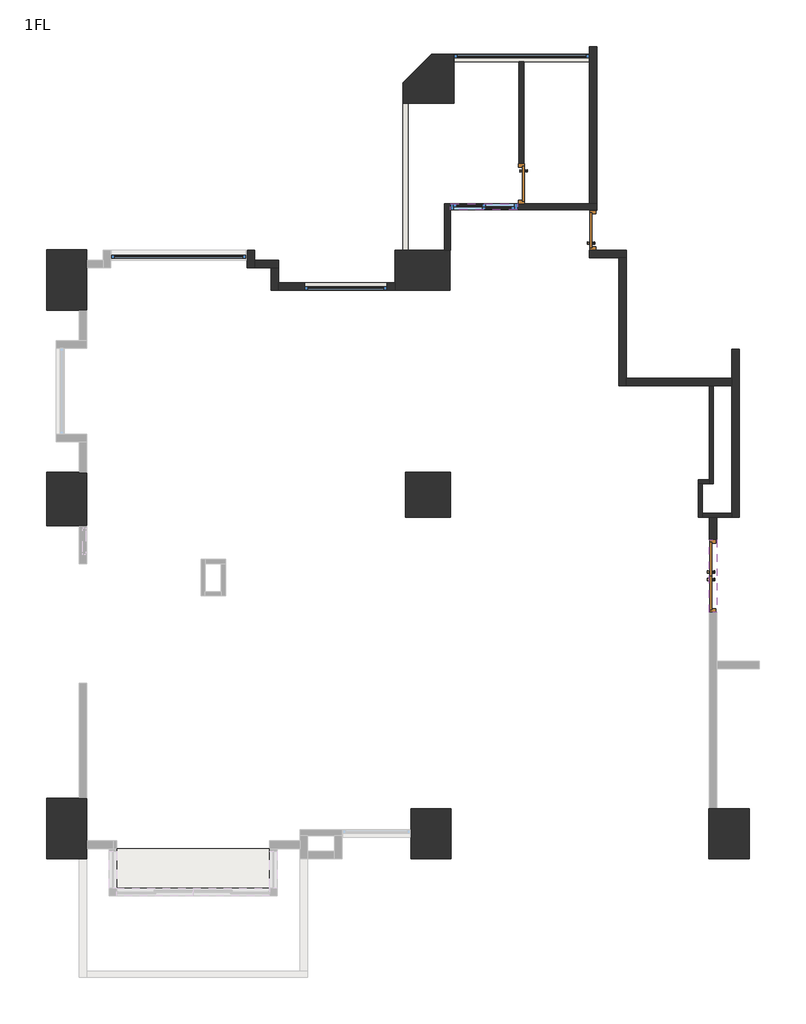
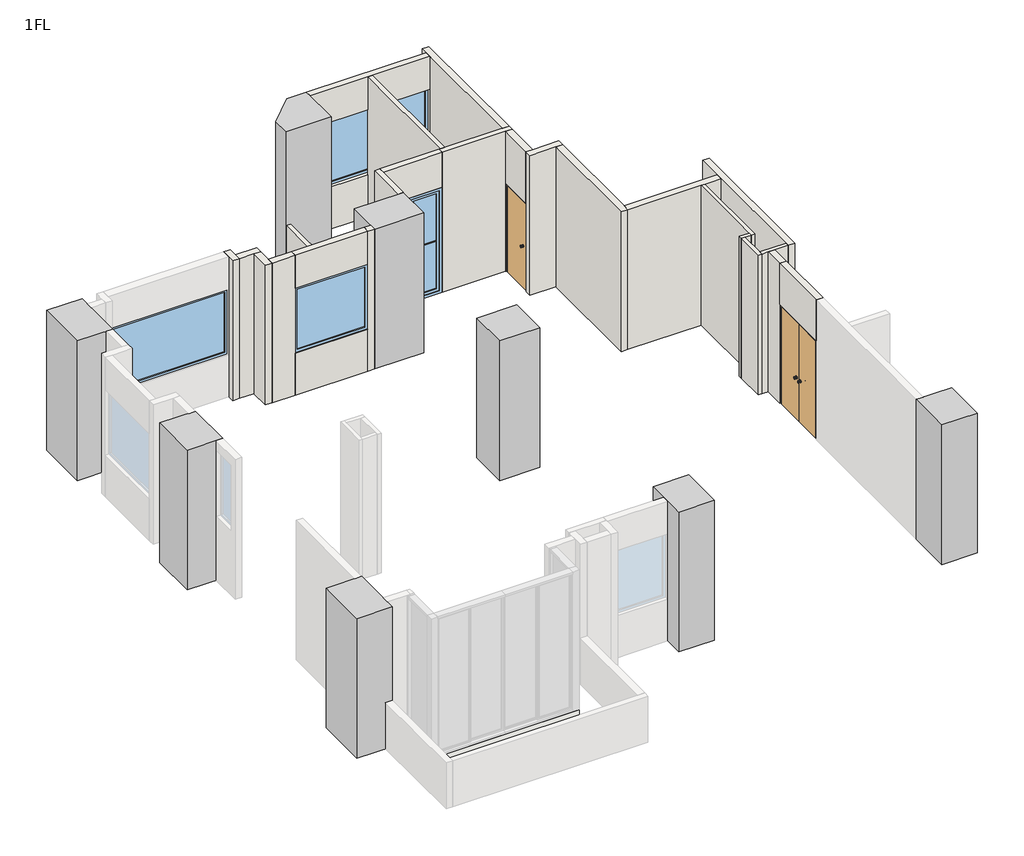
# One storey, part 2 of 2: 24 walls, 8 columns, 4 windows, 3 doors, 1 slab.
"""IFC4 building model written with IfcOpenShell, lengths in millimetres."""

from ifc_helpers import new_model, si_unit, frame, origin, origin_with_axes, place, context, project, spatial, polyline, outline, extrude, faceted_brep, transform, mapped, element, save
from components import column_736fa4ae, column_110_x_80cm_348409cf, column_80_x_100cm_881e18c4, column_80_x_107cm_b52650c9, column_80_x_120cm_96187e5d, column_90_x_90cm_5c75d0cf, door_297d4c04, door_ad5a13f9, door_46a0c78e, window_445307ba, window_89e4bd1d, window_915d79c7, window_ba6ed91b

model = new_model("IFC4")

# Units and contexts
model_context = context("Model", 3, world=origin())
ifc_project = project(units=[si_unit("LENGTHUNIT", "METRE", prefix="MILLI")], contexts=[model_context])

# Site, building, storey
site = spatial("IfcSite", under=ifc_project)
building = spatial("IfcBuilding", under=site)
storey = spatial("IfcBuildingStorey", under=building, Name="1FL", Elevation=0.0)

# Columns
placement = place(None, origin())
column_shape = column_736fa4ae(model_context)
element("IfcColumn", 1, ObjectType="柱 1 : 柱 1", at=placement, inside=storey, context=model_context, shape_type="MappedRepresentation", body=[
    mapped(column_shape, transform((0.0, 0.0, 0.0), x_axis=(1.0, 0.0, 0.0), y_axis=(0.0, 1.0, 0.0), z_axis=(0.0, 0.0, 1.0))),
])
column_110_x_80cm_shape = column_110_x_80cm_348409cf(model_context)
element("IfcColumn", 2, ObjectType="混凝土柱-矩形 : 110 x 80cm", at=placement, inside=storey, context=model_context, shape_type="MappedRepresentation", body=[
    mapped(column_110_x_80cm_shape, transform((601.1844448, 7264.0698741, 0.0), x_axis=(1.0, 0.0, 0.0), y_axis=(0.0, 1.0, 0.0), z_axis=(0.0, 0.0, 1.0))),
])
column_80_x_100cm_shape = column_80_x_100cm_881e18c4(model_context)
element("IfcColumn", 3, ObjectType="混凝土柱-矩形 : 80 x 100cm", at=placement, inside=storey, context=model_context, shape_type="MappedRepresentation", body=[
    mapped(column_80_x_100cm_shape, transform((771.1844446, -3945.9301263, 0.0), x_axis=(1.0, 0.0, 0.0), y_axis=(0.0, 1.0, 0.0), z_axis=(0.0, 0.0, 1.0))),
])
element("IfcColumn", 4, ObjectType="混凝土柱-矩形 : 80 x 100cm", at=placement, inside=storey, context=model_context, shape_type="MappedRepresentation", body=[
    mapped(column_80_x_100cm_shape, transform((6706.1844447, -3945.9301263, 0.0), x_axis=(1.0, 0.0, 0.0), y_axis=(0.0, 1.0, 0.0), z_axis=(0.0, 0.0, 1.0))),
])
column_80_x_107cm_shape = column_80_x_107cm_b52650c9(model_context)
element("IfcColumn", 5, ObjectType="混凝土柱-矩形 : 80 x 107cm", at=placement, inside=storey, context=model_context, shape_type="MappedRepresentation", body=[
    mapped(column_80_x_107cm_shape, transform((-6481.3155559, 2713.6328358, 0.0), x_axis=(1.0, 0.0, 0.0), y_axis=(0.0, 1.0, 0.0), z_axis=(0.0, 0.0, 1.0))),
])
column_80_x_120cm_shape = column_80_x_120cm_96187e5d(model_context)
element("IfcColumn", 6, ObjectType="混凝土柱-矩形 : 80 x 120cm", at=placement, inside=storey, context=model_context, shape_type="MappedRepresentation", body=[
    mapped(column_80_x_120cm_shape, transform((-6481.3155559, 7069.0698739, 0.0), x_axis=(1.0, 0.0, 0.0), y_axis=(0.0, 1.0, 0.0), z_axis=(0.0, 0.0, 1.0))),
])
element("IfcColumn", 7, ObjectType="混凝土柱-矩形 : 80 x 120cm", at=placement, inside=storey, context=model_context, shape_type="MappedRepresentation", body=[
    mapped(column_80_x_120cm_shape, transform((-6481.3155559, -3840.9301265, 0.0), x_axis=(1.0, 0.0, 0.0), y_axis=(0.0, 1.0, 0.0), z_axis=(0.0, 0.0, 1.0))),
])
column_90_x_90cm_shape = column_90_x_90cm_5c75d0cf(model_context)
element("IfcColumn", 8, ObjectType="混凝土柱-矩形 : 90 x 90cm", at=placement, inside=storey, context=model_context, shape_type="MappedRepresentation", body=[
    mapped(column_90_x_90cm_shape, transform((711.4409413, 2794.9475967, 0.0), x_axis=(1.0, 0.0, 0.0), y_axis=(0.0, 1.0, 0.0), z_axis=(0.0, 0.0, 1.0))),
])

# Doors
door_shape = door_297d4c04(model_context)
element("IfcDoor", 9, ObjectType="雙開-矩形- (1) : 143.5 * 236 cm", at=placement, inside=storey, context=model_context, shape_type="MappedRepresentation", body=[
    mapped(door_shape, transform((6386.1844447, 1181.5698741, 0.0), x_axis=(0.0, 1.0, 0.0), y_axis=(-1.0, 0.0, 0.0), z_axis=(0.0, 0.0, 1.0))),
])
door_2_shape = door_ad5a13f9(model_context)
element("IfcDoor", 10, ObjectType="單開-矩形- (1) : 80 * 210 cm", at=placement, inside=storey, context=model_context, shape_type="MappedRepresentation", body=[
    mapped(door_2_shape, transform((3786.1844446, 8056.5698732, 0.0), x_axis=(0.0, -1.0, 0.0), y_axis=(1.0, 0.0, 0.0), z_axis=(0.0, 0.0, 1.0))),
])
door_3_shape = door_46a0c78e(model_context)
element("IfcDoor", 11, ObjectType="單開-矩形- (1) : 80 * 230 cm", at=placement, inside=storey, context=model_context, shape_type="MappedRepresentation", body=[
    mapped(door_3_shape, transform((2783.6844446, 8984.0698722, 0.0), x_axis=(0.0, 1.0, 0.0), y_axis=(-1.0, 0.0, 0.0), z_axis=(0.0, 0.0, 1.0))),
])

# Slab
element("IfcSlab", 12, ObjectType="一般 - 15cm", at=placement, inside=storey, context=model_context, shape_type="SweptSolid", body=[
    extrude(outline(polyline([(-2288.8155555, -4240.9301269), (-2288.8155555, -5180.9301263), (-5633.8155559, -5180.9301263), (-5633.8155559, -4240.9301269), (-2288.8155555, -4240.9301269)])), frame((0.0, 0.0, -150.0), z_axis=(0.0, 0.0, 1.0), x_axis=(1.0, 0.0, 0.0)), (0.0, 0.0, 1.0), 150.0),
])

# Walls
element("IfcWall", 13, ObjectType="RC牆 15cm", at=placement, inside=storey, context=model_context, shape_type="Brep", body=[
    faceted_brep([(-2891.3155558, 7664.0698741, 0.0), (-2891.3155558, 7464.0698741, 0.0), (-2891.3155558, 7314.069874, 0.0), (-2891.3155558, 7314.069874, 3330.0), (-2891.3155558, 7464.0698741, 3330.0), (-2891.3155558, 7664.0698741, 3330.0), (-2741.3155558, 7664.0698741, 0.0), (-2741.3155558, 7664.0698741, 3330.0), (-2741.3155558, 7464.069874, 3330.0), (-2741.3155558, 7314.069874, 3330.0), (-2741.3155558, 7314.069874, 0.0), (-2741.3155558, 7464.069874, 0.0)], [[[0, 1, 2, 3, 4, 5]], [[6, 7, 8, 9, 10, 11]], [[2, 1, 0, 6, 11, 10]], [[5, 4, 3, 9, 8, 7]], [[3, 2, 10, 9]], [[0, 5, 7, 6]]]),
])
element("IfcWall", 14, ObjectType="RC牆 15cm", at=placement, inside=storey, context=model_context, shape_type="Brep", body=[
    faceted_brep([(-2741.3155558, 7314.069874, 0.0), (-2413.8155559, 7314.069874, 0.0), (-2263.8155559, 7314.069874, 0.0), (-2263.8155559, 7314.069874, 3330.0), (-2413.8155559, 7314.069874, 3330.0), (-2741.3155558, 7314.069874, 3330.0), (-2741.3155558, 7464.069874, 0.0), (-2741.3155558, 7464.069874, 3330.0), (-2263.8155559, 7464.069874, 3330.0), (-2263.8155559, 7464.069874, 0.0)], [[[0, 1, 2, 3, 4, 5]], [[6, 7, 8, 9]], [[2, 1, 0, 6, 9]], [[5, 4, 3, 8, 7]], [[3, 2, 9, 8]], [[0, 5, 7, 6]]]),
])
element("IfcWall", 15, ObjectType="RC牆 15cm", at=placement, inside=storey, context=model_context, shape_type="Brep", body=[
    faceted_brep([(-2413.8155559, 7314.069874, 0.0), (-2413.8155559, 6864.0698744, 0.0), (-2413.8155559, 6864.0698744, 3330.0), (-2413.8155559, 7314.069874, 3330.0), (-2263.8155559, 7314.069874, 0.0), (-2263.8155559, 7314.069874, 3330.0), (-2263.8155559, 7014.0698744, 3330.0), (-2263.8155559, 6864.0698744, 3330.0), (-2263.8155559, 6864.0698744, 0.0), (-2263.8155559, 7014.0698744, 0.0)], [[[0, 1, 2, 3]], [[4, 5, 6, 7, 8, 9]], [[1, 0, 4, 9, 8]], [[3, 2, 7, 6, 5]], [[2, 1, 8, 7]], [[0, 3, 5, 4]]]),
])
element("IfcWall", 16, ObjectType="RC牆 15cm", at=placement, inside=storey, context=model_context, shape_type="Brep", body=[
    faceted_brep([(-2263.8155559, 6864.0698744, 0.0), (-1746.0678377, 6864.0698744, 0.0), (-1746.0678377, 6864.0698744, 1000.0), (-1746.0678377, 6864.0698744, 2550.0), (-1746.0678377, 6864.0698744, 3330.0), (-2263.8155559, 6864.0698744, 3330.0), (-2263.8155559, 7014.0698744, 0.0), (-2263.8155559, 7014.0698744, 3330.0), (-1746.0678377, 7014.0698744, 3330.0), (-1746.0678377, 7014.0698744, 2550.0), (-1746.0678377, 7014.0698744, 1000.0), (-1746.0678377, 7014.0698744, 0.0)], [[[0, 1, 2, 3, 4, 5]], [[6, 7, 8, 9, 10, 11]], [[1, 0, 6, 11]], [[4, 3, 2, 1, 11, 10, 9, 8]], [[5, 4, 8, 7]], [[0, 5, 7, 6]]]),
])
element("IfcWall", 17, ObjectType="RC牆 12cm", at=placement, inside=storey, context=model_context, shape_type="Brep", body=[
    faceted_brep([(1161.1844448, 7664.0698741, 0.0), (1161.1844448, 8584.0698737, 0.0), (1161.1844448, 8584.0698737, 2500.0), (1161.1844448, 8584.0698737, 3330.0), (1161.1844448, 8464.0698737, 3330.0), (1161.1844448, 7664.0698741, 3330.0), (1041.1844448, 7664.0698741, 0.0), (1041.1844448, 7664.0698741, 3330.0), (1041.1844448, 8584.0698737, 3330.0), (1041.1844448, 8584.0698737, 0.0)], [[[0, 1, 2, 3, 4, 5]], [[6, 7, 8, 9]], [[1, 0, 6, 9]], [[5, 4, 3, 8, 7]], [[0, 5, 7, 6]], [[3, 2, 1, 9, 8]]]),
])
element("IfcWall", 18, ObjectType="RC牆 12cm", at=placement, inside=storey, context=model_context, shape_type="Brep", body=[
    faceted_brep([(2491.1844448, 8464.0698722, 0.0), (3921.1844446, 8464.0698722, 0.0), (4071.1844446, 8464.0698722, 0.0), (4071.1844446, 8464.0698722, 3330.0), (3921.1844446, 8464.0698722, 3330.0), (2491.1844448, 8464.0698722, 3330.0), (2491.1844448, 8464.0698722, 2500.0), (2491.1844448, 8584.0698722, 0.0), (2491.1844448, 8584.0698722, 2500.0), (2491.1844448, 8584.0698722, 3330.0), (2523.1844446, 8584.0698722, 3330.0), (2624.1844446, 8584.0698722, 3330.0), (3921.1844446, 8584.0698722, 3330.0), (4071.1844446, 8584.0698722, 3330.0), (4071.1844446, 8584.0698722, 0.0), (3921.1844446, 8584.0698722, 0.0)], [[[0, 1, 2, 3, 4, 5, 6]], [[7, 8, 9, 10, 11, 12, 13, 14, 15]], [[2, 1, 0, 7, 15, 14]], [[5, 4, 3, 13, 12, 11, 10, 9]], [[0, 6, 5, 9, 8, 7]], [[3, 2, 14, 13]]]),
])
element("IfcWall", 19, ObjectType="RC牆 15cm", at=placement, inside=storey, context=model_context, shape_type="Brep", body=[
    faceted_brep([(4071.1844446, 8584.0698722, 0.0), (4071.1844446, 11714.0698742, 0.0), (4071.1844446, 11714.0698742, 3330.0), (4071.1844446, 8584.0698722, 3330.0), (3921.1844446, 11714.0698742, 0.0), (3921.1844446, 11564.0698742, 0.0), (3921.1844446, 11414.0698742, 0.0), (3921.1844446, 8584.0698722, 0.0), (3921.1844446, 8584.0698722, 3330.0), (3921.1844446, 11414.0698742, 3330.0), (3921.1844446, 11564.0698742, 3330.0), (3921.1844446, 11714.0698742, 3330.0), (3921.1844446, 11414.0698742, 2550.0), (3921.1844446, 11414.0698742, 1000.0), (3921.1844446, 11564.0698742, 1000.0), (3921.1844446, 11564.0698742, 2550.0), (3922.8996913, 11414.0698742, 2550.0), (3922.8996913, 11414.0698742, 1000.0), (3922.8996913, 11564.0698742, 1000.0), (3922.8996913, 11564.0698742, 2550.0)], [[[0, 1, 2, 3]], [[4, 5, 6, 7, 8, 9, 10, 11], [12, 13, 14, 15]], [[1, 0, 7, 6, 5, 4]], [[2, 1, 4, 11]], [[3, 2, 11, 10, 9, 8]], [[0, 3, 8, 7]], [[16, 17, 13, 12]], [[18, 19, 15, 14]], [[17, 16, 19, 18]], [[19, 16, 12, 15]], [[17, 18, 14, 13]]]),
])
element("IfcWall", 20, ObjectType="RC牆 10.10", at=placement, inside=storey, context=model_context, shape_type="SweptSolid", body=[
    extrude(outline(polyline([(8584.0698722, 3330.0), (11414.0698742, 3330.0), (11414.0698742, 0.0), (9384.0698722, 0.0), (9384.0698722, 2300.0), (8584.0698722, 2300.0), (8584.0698722, 3330.0)])), frame((2523.1844446, 0.0, 0.0), z_axis=(1.0, 0.0, 0.0), x_axis=(0.0, 1.0, 0.0)), (0.0, 0.0, 1.0), 101.0),
])
element("IfcWall", 21, ObjectType="RC牆 15cm", at=placement, inside=storey, context=model_context, shape_type="Brep", body=[
    faceted_brep([(3921.1844446, 7514.0698742, 0.0), (4511.1844447, 7514.0698742, 0.0), (4661.1844447, 7514.0698742, 0.0), (4661.1844447, 7514.0698742, 3330.0), (4511.1844447, 7514.0698742, 3330.0), (3921.1844446, 7514.0698742, 3330.0), (3921.1844446, 7664.0698742, 3330.0), (4071.1844446, 7664.0698742, 3330.0), (4661.1844447, 7664.0698742, 3330.0), (4661.1844447, 7664.0698742, 0.0), (4071.1844446, 7664.0698742, 0.0), (4071.1844446, 7664.0698742, 2100.0), (3921.1844446, 7664.0698742, 2100.0), (3921.1844446, 7656.5698732, 0.0), (4071.1844446, 7656.5698732, 0.0), (3921.1844446, 7656.5698732, 2100.0), (4071.1844446, 7656.5698732, 2100.0)], [[[0, 1, 2, 3, 4, 5]], [[6, 7, 8, 9, 10, 11, 12]], [[2, 1, 0, 13, 14, 10, 9]], [[5, 4, 3, 8, 7, 6]], [[3, 2, 9, 8]], [[0, 5, 6, 12, 15, 13]], [[14, 16, 11, 10]], [[16, 14, 13, 15]], [[16, 15, 12, 11]]]),
])
element("IfcWall", 22, ObjectType="RC牆 15cm", at=placement, inside=storey, context=model_context, shape_type="Brep", body=[
    faceted_brep([(4511.1844447, 7514.0698742, 0.0), (4511.1844447, 4964.0698732, 0.0), (4511.1844447, 4964.0698732, 3330.0), (4511.1844447, 7514.0698742, 3330.0), (4661.1844447, 7514.0698742, 0.0), (4661.1844447, 7514.0698742, 3330.0), (4661.1844447, 5114.0698732, 3330.0), (4661.1844447, 4964.0698732, 3330.0), (4661.1844447, 4964.0698732, 0.0), (4661.1844447, 5114.0698732, 0.0)], [[[0, 1, 2, 3]], [[4, 5, 6, 7, 8, 9]], [[1, 0, 4, 9, 8]], [[3, 2, 7, 6, 5]], [[2, 1, 8, 7]], [[0, 3, 5, 4]]]),
])
element("IfcWall", 23, ObjectType="RC牆 15cm", at=placement, inside=storey, context=model_context, shape_type="Brep", body=[
    faceted_brep([(4661.1844447, 4964.0698732, 0.0), (6311.1844448, 4964.0698732, 0.0), (6391.1844448, 4964.0698732, 0.0), (6761.1844447, 4964.0698732, 0.0), (6761.1844447, 4964.0698732, 3330.0), (6391.1844448, 4964.0698732, 3330.0), (6311.1844448, 4964.0698732, 3330.0), (4661.1844447, 4964.0698732, 3330.0), (4661.1844447, 5114.0698732, 0.0), (4661.1844447, 5114.0698732, 3330.0), (6761.1844447, 5114.0698732, 3330.0), (6761.1844447, 5114.0698732, 0.0)], [[[0, 1, 2, 3, 4, 5, 6, 7]], [[8, 9, 10, 11]], [[3, 2, 1, 0, 8, 11]], [[7, 6, 5, 4, 10, 9]], [[0, 7, 9, 8]], [[4, 3, 11, 10]]]),
])
element("IfcWall", 24, ObjectType="RC牆 15cm", at=placement, inside=storey, context=model_context, shape_type="Brep", body=[
    faceted_brep([(6761.1844447, 5689.069874, 0.0), (6761.1844447, 5114.0698732, 0.0), (6761.1844447, 4964.0698732, 0.0), (6761.1844447, 2429.069874, 0.0), (6761.1844447, 2349.069874, 0.0), (6761.1844447, 2349.069874, 3330.0), (6761.1844447, 2429.069874, 3330.0), (6761.1844447, 4964.0698732, 3330.0), (6761.1844447, 5114.0698732, 3330.0), (6761.1844447, 5689.069874, 3330.0), (6911.1844447, 5689.069874, 0.0), (6911.1844447, 5689.069874, 3330.0), (6911.1844447, 2349.069874, 3330.0), (6911.1844447, 2349.069874, 0.0)], [[[0, 1, 2, 3, 4, 5, 6, 7, 8, 9]], [[10, 11, 12, 13]], [[4, 3, 2, 1, 0, 10, 13]], [[9, 8, 7, 6, 5, 12, 11]], [[0, 9, 11, 10]], [[5, 4, 13, 12]]]),
])
element("IfcWall", 25, ObjectType="RC牆 8", at=placement, inside=storey, context=model_context, shape_type="Brep", body=[
    faceted_brep([(6311.1844448, 4964.0698732, 0.0), (6311.1844448, 3091.069874, 0.0), (6311.1844448, 3011.069874, 0.0), (6311.1844448, 3011.069874, 3330.0), (6311.1844448, 3091.069874, 3330.0), (6311.1844448, 4964.0698732, 3330.0), (6391.1844448, 4964.0698732, 0.0), (6391.1844448, 4964.0698732, 3330.0), (6391.1844448, 3011.069874, 3330.0), (6391.1844448, 3011.069874, 0.0)], [[[0, 1, 2, 3, 4, 5]], [[6, 7, 8, 9]], [[2, 1, 0, 6, 9]], [[5, 4, 3, 8, 7]], [[3, 2, 9, 8]], [[0, 5, 7, 6]]]),
])
element("IfcWall", 26, ObjectType="RC牆 8", at=placement, inside=storey, context=model_context, shape_type="Brep", body=[
    faceted_brep([(6311.1844448, 3091.069874, 0.0), (6091.1844446, 3091.069874, 0.0), (6091.1844446, 3091.069874, 3330.0), (6311.1844448, 3091.069874, 3330.0), (6311.1844448, 3011.069874, 0.0), (6311.1844448, 3011.069874, 3330.0), (6171.1844446, 3011.069874, 3330.0), (6091.1844446, 3011.069874, 3330.0), (6091.1844446, 3011.069874, 0.0), (6171.1844446, 3011.069874, 0.0)], [[[0, 1, 2, 3]], [[4, 5, 6, 7, 8, 9]], [[1, 0, 4, 9, 8]], [[3, 2, 7, 6, 5]], [[2, 1, 8, 7]], [[0, 3, 5, 4]]]),
])
element("IfcWall", 27, ObjectType="RC牆 8", at=placement, inside=storey, context=model_context, shape_type="Brep", body=[
    faceted_brep([(6091.1844446, 3011.069874, 0.0), (6091.1844446, 2349.069874, 0.0), (6091.1844446, 2349.069874, 3330.0), (6091.1844446, 3011.069874, 3330.0), (6171.1844446, 3011.069874, 0.0), (6171.1844446, 3011.069874, 3330.0), (6171.1844446, 2429.069874, 3330.0), (6171.1844446, 2349.069874, 3330.0), (6171.1844446, 2349.069874, 0.0), (6171.1844446, 2429.069874, 0.0)], [[[0, 1, 2, 3]], [[4, 5, 6, 7, 8, 9]], [[1, 0, 4, 9, 8]], [[3, 2, 7, 6, 5]], [[2, 1, 8, 7]], [[0, 3, 5, 4]]]),
])
element("IfcWall", 28, ObjectType="RC牆 8", at=placement, inside=storey, context=model_context, shape_type="Brep", body=[
    faceted_brep([(6171.1844446, 2349.069874, 0.0), (6311.1844447, 2349.069874, 0.0), (6461.1844447, 2349.069874, 0.0), (6761.1844447, 2349.069874, 0.0), (6761.1844447, 2349.069874, 3330.0), (6461.1844447, 2349.069874, 3330.0), (6311.1844447, 2349.069874, 3330.0), (6171.1844446, 2349.069874, 3330.0), (6171.1844446, 2429.069874, 0.0), (6171.1844446, 2429.069874, 3330.0), (6761.1844447, 2429.069874, 3330.0), (6761.1844447, 2429.069874, 0.0)], [[[0, 1, 2, 3, 4, 5, 6, 7]], [[8, 9, 10, 11]], [[3, 2, 1, 0, 8, 11]], [[7, 6, 5, 4, 10, 9]], [[0, 7, 9, 8]], [[4, 3, 11, 10]]]),
])
element("IfcWall", 29, ObjectType="RC牆 15cm", at=placement, inside=storey, context=model_context, shape_type="Brep", body=[
    faceted_brep([(6311.1844447, 2349.069874, 0.0), (6311.1844447, 1899.0698741, 0.0), (6311.1844447, 1899.0698741, 2360.0), (6311.1844447, 1899.0698741, 3330.0), (6311.1844447, 2349.069874, 3330.0), (6461.1844447, 2349.069874, 0.0), (6461.1844447, 2349.069874, 3330.0), (6461.1844447, 1899.0698741, 3330.0), (6461.1844447, 1899.0698741, 2360.0), (6461.1844447, 1899.0698741, 0.0)], [[[0, 1, 2, 3, 4]], [[5, 6, 7, 8, 9]], [[1, 0, 5, 9]], [[3, 2, 1, 9, 8, 7]], [[4, 3, 7, 6]], [[0, 4, 6, 5]]]),
])
element("IfcWall", 30, ObjectType="RC牆 15cm", at=placement, inside=storey, context=model_context, shape_type="Brep", body=[
    faceted_brep([(-101.0678377, 6864.069874, 0.0), (51.1844448, 6864.069874, 0.0), (51.1844448, 6864.069874, 3330.0), (-101.0678377, 6864.069874, 3330.0), (-101.0678377, 6864.069874, 2550.0), (-101.0678377, 6864.069874, 1000.0), (-101.0678377, 7014.069874, 0.0), (-101.0678377, 7014.069874, 1000.0), (-101.0678377, 7014.069874, 2550.0), (-101.0678377, 7014.069874, 3330.0), (51.1844448, 7014.069874, 3330.0), (51.1844448, 7014.069874, 0.0)], [[[0, 1, 2, 3, 4, 5]], [[6, 7, 8, 9, 10, 11]], [[1, 0, 6, 11]], [[2, 1, 11, 10]], [[3, 2, 10, 9]], [[0, 5, 4, 3, 9, 8, 7, 6]]]),
])
element("IfcWall", 31, ObjectType="RC牆 15cm", at=placement, inside=storey, context=model_context, shape_type="SweptSolid", body=[
    extrude(outline(polyline([(-101.0678377, 6864.0698744), (-1746.0678377, 6864.0698744), (-1746.0678377, 7014.0698744), (-101.0678377, 7014.0698744), (-101.0678377, 6864.0698744)])), origin_with_axes(), (0.0, 0.0, 1.0), 1000.0),
    extrude(outline(polyline([(-101.0678377, 6864.0698744), (-1746.0678377, 6864.0698744), (-1746.0678377, 7014.0698744), (-101.0678377, 7014.0698744), (-101.0678377, 6864.0698744)])), frame((0.0, 0.0, 2550.0), z_axis=(0.0, 0.0, 1.0), x_axis=(1.0, 0.0, 0.0)), (0.0, 0.0, 1.0), 780.0),
])
element("IfcWall", 32, ObjectType="RC牆 12cm", at=placement, inside=storey, context=model_context, shape_type="SweptSolid", body=[
    extrude(outline(polyline([(2491.1844448, 8464.0698737), (1161.1844448, 8464.0698737), (1161.1844448, 8584.0698737), (2491.1844448, 8584.0698737), (2491.1844448, 8464.0698737)])), frame((0.0, 0.0, 2500.0), z_axis=(0.0, 0.0, 1.0), x_axis=(1.0, 0.0, 0.0)), (0.0, 0.0, 1.0), 830.0),
])
element("IfcWall", 33, ObjectType="RC牆 15cm", at=placement, inside=storey, context=model_context, shape_type="Brep", body=[
    faceted_brep([(1226.1844448, 11414.0698742, 0.0), (2523.1844446, 11414.0698742, 0.0), (2624.1844446, 11414.0698742, 0.0), (3921.1844446, 11414.0698742, 0.0), (3921.1844446, 11414.0698742, 1000.0), (1227.8996913, 11414.0698742, 1000.0), (1227.8996913, 11414.0698742, 2550.0), (3921.1844446, 11414.0698742, 2550.0), (3921.1844446, 11414.0698742, 3330.0), (2624.1844446, 11414.0698742, 3330.0), (2523.1844446, 11414.0698742, 3330.0), (1226.1844448, 11414.0698742, 3330.0), (3921.1844446, 11564.0698742, 0.0), (1226.1844448, 11564.0698742, 0.0), (1226.1844448, 11564.0698742, 3330.0), (3921.1844446, 11564.0698742, 3330.0), (3921.1844446, 11564.0698742, 2550.0), (1227.8996913, 11564.0698742, 2550.0), (1227.8996913, 11564.0698742, 1000.0), (3921.1844446, 11564.0698742, 1000.0)], [[[0, 1, 2, 3, 4, 5, 6, 7, 8, 9, 10, 11]], [[12, 13, 14, 15, 16, 17, 18, 19]], [[3, 2, 1, 0, 13, 12]], [[11, 10, 9, 8, 15, 14]], [[0, 11, 14, 13]], [[3, 12, 19, 4]], [[15, 8, 7, 16]], [[6, 17, 16, 7]], [[17, 6, 5, 18]], [[18, 5, 4, 19]]]),
])
element("IfcWall", 34, ObjectType="RC牆 10", at=placement, inside=storey, context=model_context, shape_type="SweptSolid", body=[
    extrude(outline(polyline([(211.1534801, 7664.0698741), (211.1534801, 10589.0698742), (311.1534801, 10589.0698742), (311.1534801, 7664.0698741), (211.1534801, 7664.0698741)])), origin_with_axes(), (0.0, 0.0, 1.0), 1100.0),
])
element("IfcWall", 35, ObjectType="RC牆 15cm", at=placement, inside=storey, context=model_context, shape_type="SweptSolid", body=[
    extrude(outline(polyline([(6311.1844447, 464.0698741), (6311.1844447, 1899.0698741), (6461.1844447, 1899.0698741), (6461.1844447, 464.0698741), (6311.1844447, 464.0698741)])), frame((0.0, 0.0, 2360.0), z_axis=(0.0, 0.0, 1.0), x_axis=(1.0, 0.0, 0.0)), (0.0, 0.0, 1.0), 970.0),
])
element("IfcWall", 36, ObjectType="RC牆 15cm", at=placement, inside=storey, context=model_context, shape_type="SweptSolid", body=[
    extrude(outline(polyline([(7664.0698742, 3330.0), (8464.0698722, 3330.0), (8464.0698722, 0.0), (8456.5698732, 0.0), (8456.5698732, 2100.0), (7664.0698742, 2100.0), (7664.0698742, 3330.0)])), frame((3921.1844446, 0.0, 0.0), z_axis=(1.0, 0.0, 0.0), x_axis=(0.0, 1.0, 0.0)), (0.0, 0.0, 1.0), 150.0),
])

# Windows
window_shape = window_445307ba(model_context)
element("IfcWindow", 37, ObjectType="固定窗-矩形- (1) : 269 * 155 cm", at=placement, inside=storey, context=model_context, shape_type="MappedRepresentation", body=[
    mapped(window_shape, transform((-4248.8155558, 7564.0698741, 0.0), x_axis=(1.0, 0.0, 0.0), y_axis=(0.0, 1.0, 0.0), z_axis=(0.0, 0.0, 1.0))),
])
window_2_shape = window_89e4bd1d(model_context)
element("IfcWindow", 38, ObjectType="固定窗-矩形- (1) : 164.5 * 155 cm", at=placement, inside=storey, context=model_context, shape_type="MappedRepresentation", body=[
    mapped(window_2_shape, transform((-923.5678377, 6939.0698744, 0.0), x_axis=(1.0, 0.0, 0.0), y_axis=(0.0, 1.0, 0.0), z_axis=(0.0, 0.0, 1.0))),
])
window_3_shape = window_915d79c7(model_context)
element("IfcWindow", 39, ObjectType="雙開落地窗- (2) : 133 * 250 cm", at=placement, inside=storey, context=model_context, shape_type="MappedRepresentation", body=[
    mapped(window_3_shape, transform((1826.1844448, 8344.0698737, 0.0), x_axis=(-1.0, 0.0, 0.0), y_axis=(0.0, -1.0, 0.0), z_axis=(0.0, 0.0, 1.0))),
])
window_4_shape = window_ba6ed91b(model_context)
element("IfcWindow", 40, ObjectType="固定窗-矩形- (1) : 269.5 * 155 cm", at=placement, inside=storey, context=model_context, shape_type="MappedRepresentation", body=[
    mapped(window_4_shape, transform((2575.3996913, 11489.0698742, 0.0), x_axis=(-1.0, 0.0, 0.0), y_axis=(0.0, -1.0, 0.0), z_axis=(0.0, 0.0, 1.0))),
])

save(model, "model.ifc")
